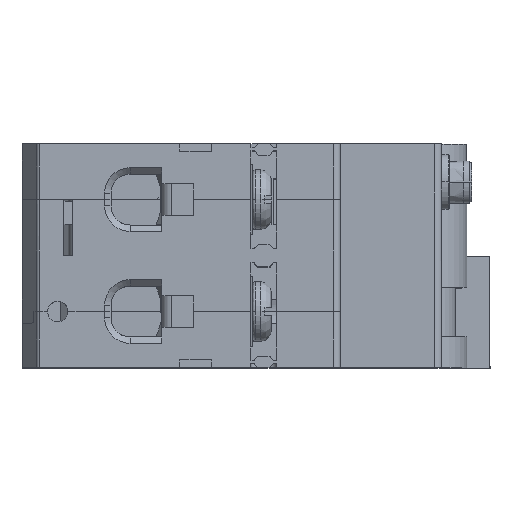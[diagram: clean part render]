
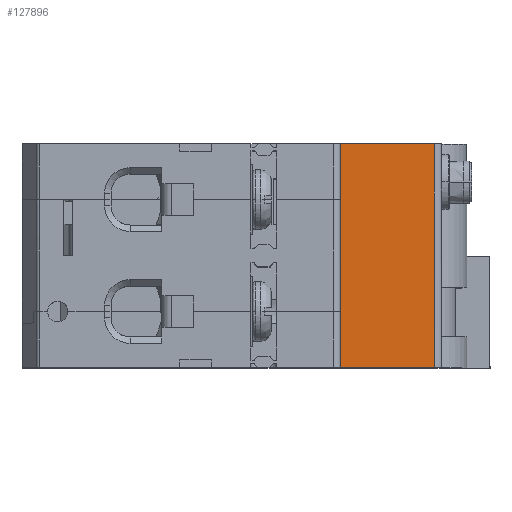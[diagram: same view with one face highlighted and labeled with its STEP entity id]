
A CAD part, top view. The second image highlights one B-rep face of the part: STEP entity #127896.
In plain terms, the highlighted planar face has unit normal (0, 0, 1).
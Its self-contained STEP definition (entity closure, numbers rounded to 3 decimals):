
#2625 = ORIENTED_EDGE ( 'NONE', *, *, #100123, .F. ) ;
#3493 = EDGE_CURVE ( 'NONE', #77849, #78986, #11153, .T. ) ;
#4917 = DIRECTION ( 'NONE',  ( 0., 0., 1. ) ) ;
#7372 = CARTESIAN_POINT ( 'NONE',  ( 50., 35.2, 64. ) ) ;
#8478 = DIRECTION ( 'NONE',  ( 1., 0., 0. ) ) ;
#11153 = LINE ( 'NONE', #66334, #106184 ) ;
#11433 = EDGE_LOOP ( 'NONE', ( #99137, #48079, #68882, #2625, #37750, #19186 ) ) ;
#14199 = VECTOR ( 'NONE', #151482, 1000. ) ;
#14438 = EDGE_CURVE ( 'NONE', #84261, #64918, #108677, .T. ) ;
#15979 = CARTESIAN_POINT ( 'NONE',  ( 50., 26.4, 64. ) ) ;
#17631 = CARTESIAN_POINT ( 'NONE',  ( 65.096, 35.904, 64. ) ) ;
#19014 = CARTESIAN_POINT ( 'NONE',  ( 50., 17.6, 64. ) ) ;
#19186 = ORIENTED_EDGE ( 'NONE', *, *, #94499, .F. ) ;
#20297 = PLANE ( 'NONE',  #94279 ) ;
#31852 = VECTOR ( 'NONE', #8478, 1000. ) ;
#33200 = VECTOR ( 'NONE', #106896, 1000. ) ;
#37750 = ORIENTED_EDGE ( 'NONE', *, *, #3493, .T. ) ;
#38096 = CARTESIAN_POINT ( 'NONE',  ( 64.8, 17.6, 64. ) ) ;
#38330 = LINE ( 'NONE', #175971, #31852 ) ;
#38730 = CARTESIAN_POINT ( 'NONE',  ( 50., 0., 64. ) ) ;
#48079 = ORIENTED_EDGE ( 'NONE', *, *, #14438, .F. ) ;
#61522 = VERTEX_POINT ( 'NONE', #38730 ) ;
#64918 = VERTEX_POINT ( 'NONE', #174771 ) ;
#66334 = CARTESIAN_POINT ( 'NONE',  ( 50., 17.6, 64. ) ) ;
#68882 = ORIENTED_EDGE ( 'NONE', *, *, #170182, .F. ) ;
#77849 = VERTEX_POINT ( 'NONE', #15979 ) ;
#78986 = VERTEX_POINT ( 'NONE', #116105 ) ;
#84261 = VERTEX_POINT ( 'NONE', #170906 ) ;
#93992 = LINE ( 'NONE', #122980, #164055 ) ;
#94279 = AXIS2_PLACEMENT_3D ( 'NONE', #17631, #4917, #129900 ) ;
#94499 = EDGE_CURVE ( 'NONE', #61522, #78986, #93992, .T. ) ;
#98616 = VECTOR ( 'NONE', #98684, 1000. ) ;
#98684 = DIRECTION ( 'NONE',  ( 0., 1., 0. ) ) ;
#99137 = ORIENTED_EDGE ( 'NONE', *, *, #132848, .F. ) ;
#100123 = EDGE_CURVE ( 'NONE', #77849, #106464, #101358, .T. ) ;
#101358 = LINE ( 'NONE', #19014, #98616 ) ;
#106184 = VECTOR ( 'NONE', #121606, 1000. ) ;
#106464 = VERTEX_POINT ( 'NONE', #7372 ) ;
#106896 = DIRECTION ( 'NONE',  ( 0., -1., 0. ) ) ;
#108677 = LINE ( 'NONE', #38096, #33200 ) ;
#111604 = LINE ( 'NONE', #176864, #14199 ) ;
#116105 = CARTESIAN_POINT ( 'NONE',  ( 50., 8.8, 64. ) ) ;
#121606 = DIRECTION ( 'NONE',  ( 0., -1., 0. ) ) ;
#122980 = CARTESIAN_POINT ( 'NONE',  ( 50., 17.6, 64. ) ) ;
#127896 = ADVANCED_FACE ( 'NONE', ( #144337 ), #20297, .T. ) ;
#129900 = DIRECTION ( 'NONE',  ( 1., 0., 0. ) ) ;
#132848 = EDGE_CURVE ( 'NONE', #64918, #61522, #111604, .T. ) ;
#144337 = FACE_OUTER_BOUND ( 'NONE', #11433, .T. ) ;
#151482 = DIRECTION ( 'NONE',  ( -1., 0., 0. ) ) ;
#164055 = VECTOR ( 'NONE', #178201, 1000. ) ;
#170182 = EDGE_CURVE ( 'NONE', #106464, #84261, #38330, .T. ) ;
#170906 = CARTESIAN_POINT ( 'NONE',  ( 64.8, 35.2, 64. ) ) ;
#174771 = CARTESIAN_POINT ( 'NONE',  ( 64.8, 0., 64. ) ) ;
#175971 = CARTESIAN_POINT ( 'NONE',  ( 57.4, 35.2, 64. ) ) ;
#176864 = CARTESIAN_POINT ( 'NONE',  ( 57.4, 0., 64. ) ) ;
#178201 = DIRECTION ( 'NONE',  ( 0., 1., 0. ) ) ;
